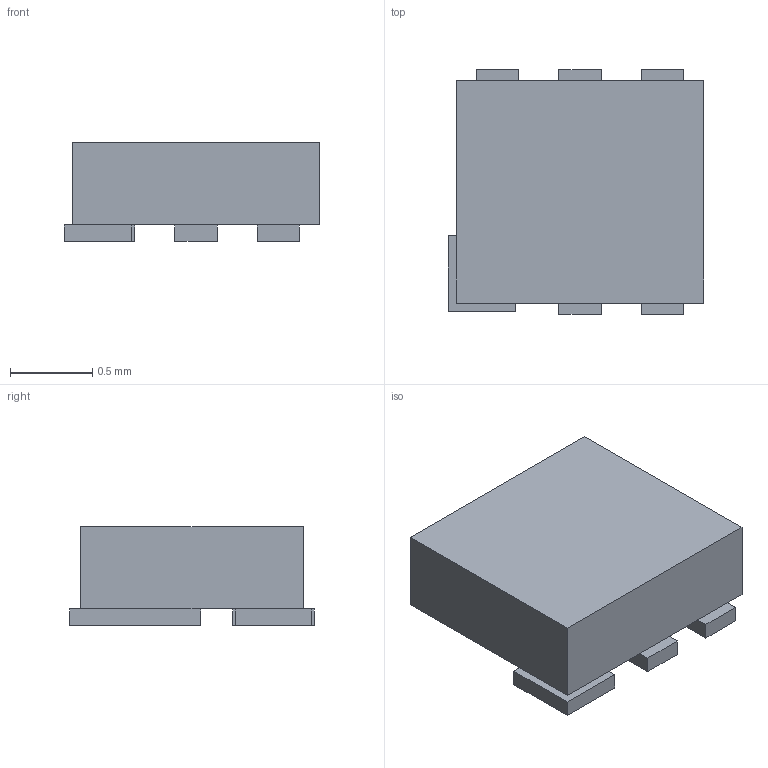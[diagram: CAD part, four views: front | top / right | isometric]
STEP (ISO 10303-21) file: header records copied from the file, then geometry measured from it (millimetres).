
FILE_DESCRIPTION(('FreeCAD Model'),'2;1');
FILE_NAME('/var/www/3D/0T/523703.2.2.stp','2025-01-22T23:52:43',( 'Author'),(''),'Open CASCADE STEP processor 6.9','FreeCAD','Unknown' );
FILE_SCHEMA(('AUTOMOTIVE_DESIGN { 1 0 10303 214 1 1 1 1 }'));
Length unit declared in the file: millimetre
Products named in the file (3): ASSEMBLY; Body; Pins
Assembly tree (2 placements, depth 2):
  ASSEMBLY
    Body
    Pins
Bounding box: 1.55 x 1.49 x 0.6 mm (x, y, z)
Volume: 1.1 mm3; surface area: 10.1 mm2
Topology: 7 solids, 7 shells, 42 faces, 84 edges, 56 vertices
Faces by surface type: plane 42
Entity records: 2261 total; most frequent: CARTESIAN_POINT 353, DIRECTION 342, LINE 252, VECTOR 252, ORIENTED_EDGE 168, PCURVE 168, DEFINITIONAL_REPRESENTATION 168, EDGE_CURVE 84
